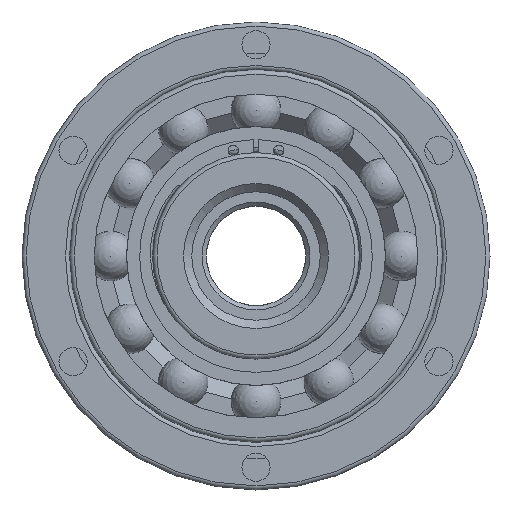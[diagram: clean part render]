
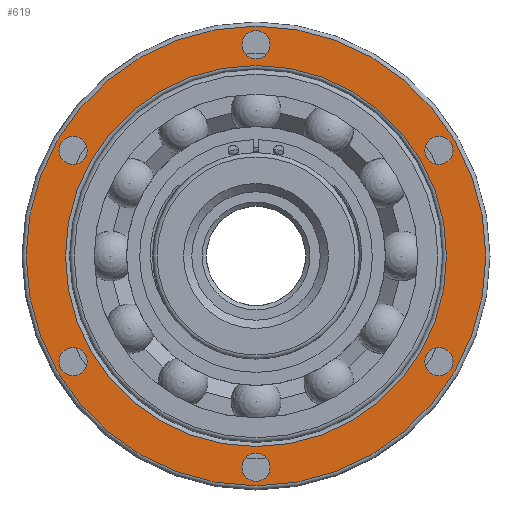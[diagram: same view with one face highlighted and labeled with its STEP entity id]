
A CAD part, left-side view. The second image highlights one B-rep face of the part: STEP entity #619.
In plain terms, the highlighted planar face has unit normal (-1, 0, 0).
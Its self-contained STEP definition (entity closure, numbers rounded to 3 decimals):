
#619 = ADVANCED_FACE( '', ( #1338, #1339, #1340, #1341, #1342, #1343, #1344, #1345 ), #1346, .T. );
#1338 = FACE_OUTER_BOUND( '', #2119, .T. );
#1339 = FACE_BOUND( '', #2120, .T. );
#1340 = FACE_BOUND( '', #2121, .T. );
#1341 = FACE_BOUND( '', #2122, .T. );
#1342 = FACE_BOUND( '', #2123, .T. );
#1343 = FACE_BOUND( '', #2124, .T. );
#1344 = FACE_BOUND( '', #2125, .T. );
#1345 = FACE_BOUND( '', #2126, .T. );
#1346 = PLANE( '', #2127 );
#2119 = EDGE_LOOP( '', ( #3909 ) );
#2120 = EDGE_LOOP( '', ( #3910 ) );
#2121 = EDGE_LOOP( '', ( #3911 ) );
#2122 = EDGE_LOOP( '', ( #3912 ) );
#2123 = EDGE_LOOP( '', ( #3913 ) );
#2124 = EDGE_LOOP( '', ( #3914 ) );
#2125 = EDGE_LOOP( '', ( #3915 ) );
#2126 = EDGE_LOOP( '', ( #3916 ) );
#2127 = AXIS2_PLACEMENT_3D( '', #3917, #3918, #3919 );
#3909 = ORIENTED_EDGE( '', *, *, #4271, .T. );
#3910 = ORIENTED_EDGE( '', *, *, #4725, .T. );
#3911 = ORIENTED_EDGE( '', *, *, #4470, .T. );
#3912 = ORIENTED_EDGE( '', *, *, #4549, .T. );
#3913 = ORIENTED_EDGE( '', *, *, #4571, .T. );
#3914 = ORIENTED_EDGE( '', *, *, #4128, .T. );
#3915 = ORIENTED_EDGE( '', *, *, #4533, .T. );
#3916 = ORIENTED_EDGE( '', *, *, #4225, .F. );
#3917 = CARTESIAN_POINT( '', ( 4.5, 0., 46. ) );
#3918 = DIRECTION( '', ( -1., 0., 0. ) );
#3919 = DIRECTION( '', ( 0., 0., 1. ) );
#4128 = EDGE_CURVE( '', #4924, #4924, #4925, .T. );
#4225 = EDGE_CURVE( '', #5089, #5089, #5090, .T. );
#4271 = EDGE_CURVE( '', #5166, #5166, #5167, .T. );
#4470 = EDGE_CURVE( '', #5479, #5479, #5480, .T. );
#4533 = EDGE_CURVE( '', #5566, #5566, #5567, .T. );
#4549 = EDGE_CURVE( '', #5588, #5588, #5589, .T. );
#4571 = EDGE_CURVE( '', #5617, #5617, #5618, .T. );
#4725 = EDGE_CURVE( '', #5809, #5809, #5810, .T. );
#4924 = VERTEX_POINT( '', #6248 );
#4925 = CIRCLE( '', #6249, 3.4 );
#5089 = VERTEX_POINT( '', #6709 );
#5090 = CIRCLE( '', #6710, 46. );
#5166 = VERTEX_POINT( '', #6930 );
#5167 = CIRCLE( '', #6931, 55.5 );
#5479 = VERTEX_POINT( '', #8045 );
#5480 = CIRCLE( '', #8046, 3.4 );
#5566 = VERTEX_POINT( '', #8249 );
#5567 = CIRCLE( '', #8250, 3.4 );
#5588 = VERTEX_POINT( '', #8272 );
#5589 = CIRCLE( '', #8273, 3.4 );
#5617 = VERTEX_POINT( '', #8330 );
#5618 = CIRCLE( '', #8331, 3.4 );
#5809 = VERTEX_POINT( '', #8872 );
#5810 = CIRCLE( '', #8873, 3.4 );
#6248 = CARTESIAN_POINT( '', ( 4.5, 47.112, 27.2 ) );
#6249 = AXIS2_PLACEMENT_3D( '', #9070, #9071, #9072 );
#6709 = CARTESIAN_POINT( '', ( 4.5, 0., 46. ) );
#6710 = AXIS2_PLACEMENT_3D( '', #9174, #9175, #9176 );
#6930 = CARTESIAN_POINT( '', ( 4.5, 0., 55.5 ) );
#6931 = AXIS2_PLACEMENT_3D( '', #9229, #9230, #9231 );
#8045 = CARTESIAN_POINT( '', ( 4.5, -47.112, -27.2 ) );
#8046 = AXIS2_PLACEMENT_3D( '', #9476, #9477, #9478 );
#8249 = CARTESIAN_POINT( '', ( 4.5, 0., 54.4 ) );
#8250 = AXIS2_PLACEMENT_3D( '', #9549, #9550, #9551 );
#8272 = CARTESIAN_POINT( '', ( 4.5, 0., -54.4 ) );
#8273 = AXIS2_PLACEMENT_3D( '', #9571, #9572, #9573 );
#8330 = CARTESIAN_POINT( '', ( 4.5, 47.112, -27.2 ) );
#8331 = AXIS2_PLACEMENT_3D( '', #9600, #9601, #9602 );
#8872 = CARTESIAN_POINT( '', ( 4.5, -47.112, 27.2 ) );
#8873 = AXIS2_PLACEMENT_3D( '', #9745, #9746, #9747 );
#9070 = CARTESIAN_POINT( '', ( 4.5, 44.167, 25.5 ) );
#9071 = DIRECTION( '', ( 1., 0., 0. ) );
#9072 = DIRECTION( '', ( 0., 0.866, 0.5 ) );
#9174 = CARTESIAN_POINT( '', ( 4.5, 0., 0. ) );
#9175 = DIRECTION( '', ( -1., 0., 0. ) );
#9176 = DIRECTION( '', ( 0., 0., 1. ) );
#9229 = CARTESIAN_POINT( '', ( 4.5, 0., 0. ) );
#9230 = DIRECTION( '', ( -1., 0., 0. ) );
#9231 = DIRECTION( '', ( 0., 0., 1. ) );
#9476 = CARTESIAN_POINT( '', ( 4.5, -44.167, -25.5 ) );
#9477 = DIRECTION( '', ( 1., 0., 0. ) );
#9478 = DIRECTION( '', ( 0., -0.866, -0.5 ) );
#9549 = CARTESIAN_POINT( '', ( 4.5, 0., 51. ) );
#9550 = DIRECTION( '', ( 1., 0., 0. ) );
#9551 = DIRECTION( '', ( 0., 0., 1. ) );
#9571 = CARTESIAN_POINT( '', ( 4.5, 0., -51. ) );
#9572 = DIRECTION( '', ( 1., 0., 0. ) );
#9573 = DIRECTION( '', ( 0., 0., -1. ) );
#9600 = CARTESIAN_POINT( '', ( 4.5, 44.167, -25.5 ) );
#9601 = DIRECTION( '', ( 1., 0., 0. ) );
#9602 = DIRECTION( '', ( 0., 0.866, -0.5 ) );
#9745 = CARTESIAN_POINT( '', ( 4.5, -44.167, 25.5 ) );
#9746 = DIRECTION( '', ( 1., 0., 0. ) );
#9747 = DIRECTION( '', ( 0., -0.866, 0.5 ) );
